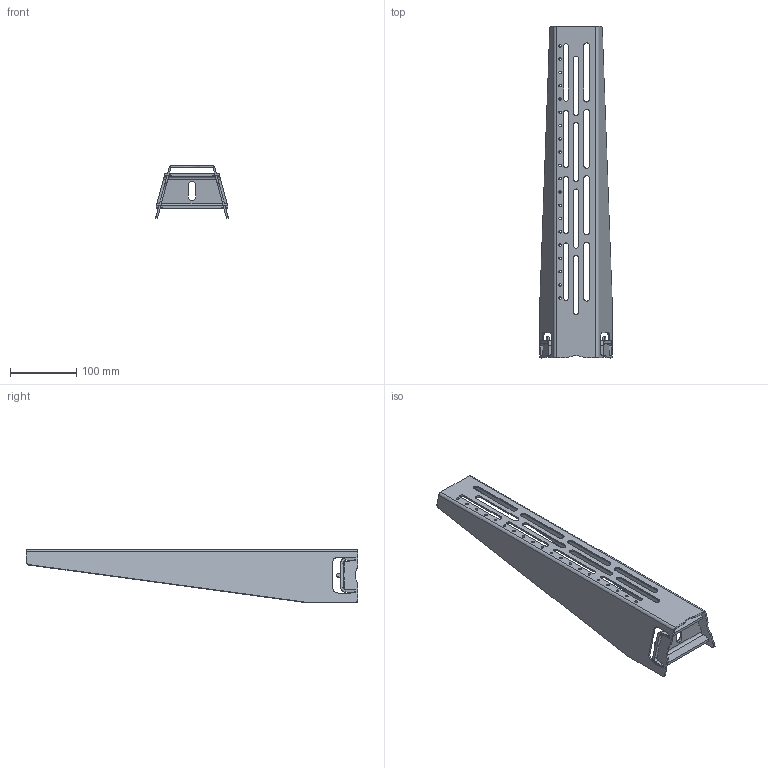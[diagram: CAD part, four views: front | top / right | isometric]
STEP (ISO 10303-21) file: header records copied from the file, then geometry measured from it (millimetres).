
FILE_DESCRIPTION (( 'STEP AP214' ), '1' );
FILE_NAME ('080043-11X11X0500 KONSOLE 0800 500M.STEP', '2013-01-17T10:34:37', ( '' ), ( '' ), 'SwSTEP 2.0', 'SolidWorks 2012', '' );
FILE_SCHEMA (( 'AUTOMOTIVE_DESIGN' ));
Length unit declared in the file: millimetre
Products named in the file (3): 08-B020-6748; 08-B020-6749; 080043-11X11X0500 KONSOLE 0800 500M
Assembly tree (2 placements, depth 2):
  080043-11X11X0500 KONSOLE 0800 500M
    08-B020-6749
    08-B020-6748
Bounding box: 109.31 x 500 x 79.77 mm (x, y, z)
Volume: 222135 mm3; surface area: 181324.2 mm2
Topology: 2 solids, 2 shells, 286 faces, 814 edges, 532 vertices
Faces by surface type: cylinder 163, plane 119, bspline 4
Entity records: 11831 total; most frequent: CARTESIAN_POINT 1769, DIRECTION 1698, ORIENTED_EDGE 1628, EDGE_CURVE 814, AXIS2_PLACEMENT_3D 605, VERTEX_POINT 532, LINE 488, VECTOR 488
